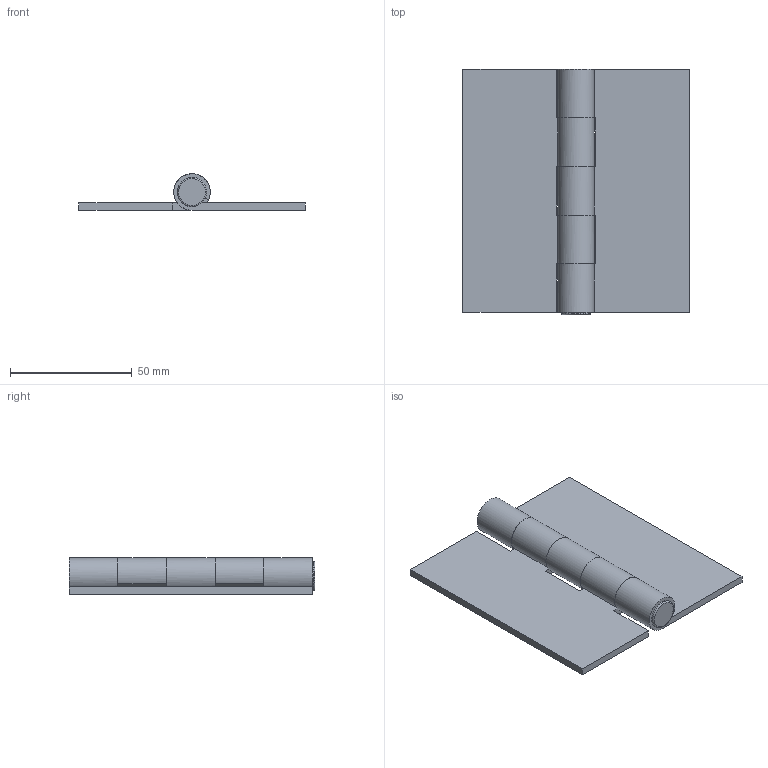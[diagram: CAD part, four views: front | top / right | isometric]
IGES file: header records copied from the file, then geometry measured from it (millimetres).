
Global section: file name: DR_HTN10093-30; native system: Autodesk Inventor 2015; preprocessor: unknown; author: Administrator; date: 20170823.081416; units: millimetre
Bounding box: 93 x 101 x 15 mm (x, y, z)
Volume: 41251.5 mm3; surface area: 29092.4 mm2
Topology: 3 solids, 3 shells, 45 faces, 120 edges, 82 vertices
Faces by surface type: bspline 45
